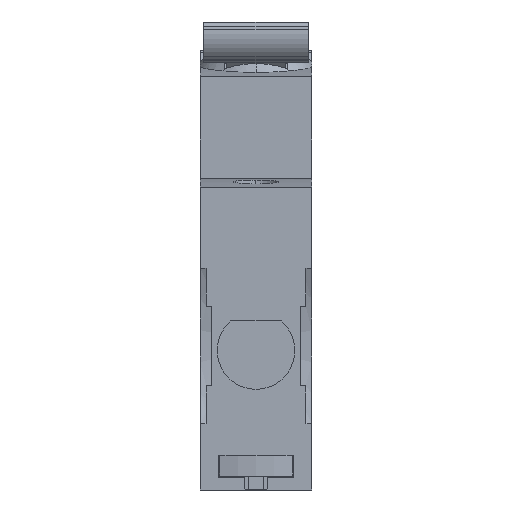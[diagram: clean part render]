
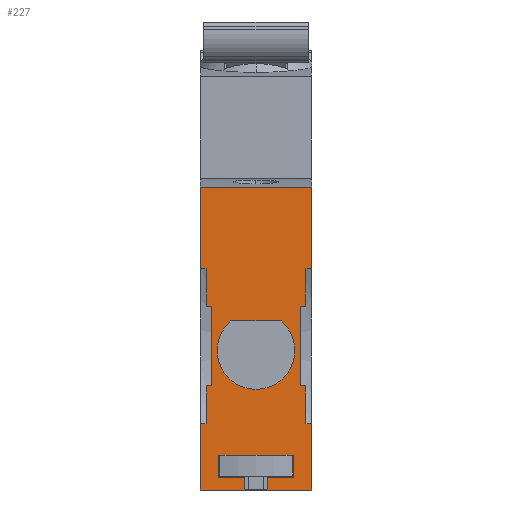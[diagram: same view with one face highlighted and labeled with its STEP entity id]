
A CAD part, front view. The second image highlights one B-rep face of the part: STEP entity #227.
In plain terms, the highlighted planar face has unit normal (0, -1, 0).
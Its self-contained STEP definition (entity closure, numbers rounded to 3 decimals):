
#227=ADVANCED_FACE('',(#709,#710),#711,.T.);
#709=FACE_OUTER_BOUND('',#1481,.T.);
#710=FACE_BOUND('',#1482,.T.);
#711=PLANE('',#1483);
#1481=EDGE_LOOP('',(#2865,#2866,#2867,#2868,#2869,#2870,#2871,#2872,#2873,#2874,#2875,#2876,#2877,#2878,#2879,#2880,#2881,#2882,#2883,#2884,#2885,#2886,#2887,#2888,#2889,#2890,#2891,#2892));
#1482=EDGE_LOOP('',(#2893,#2894,#2895));
#1483=AXIS2_PLACEMENT_3D('',#2896,#2897,#2898);
#2865=ORIENTED_EDGE('',*,*,#5557,.F.);
#2866=ORIENTED_EDGE('',*,*,#5558,.T.);
#2867=ORIENTED_EDGE('',*,*,#5559,.F.);
#2868=ORIENTED_EDGE('',*,*,#5264,.T.);
#2869=ORIENTED_EDGE('',*,*,#5560,.T.);
#2870=ORIENTED_EDGE('',*,*,#5561,.T.);
#2871=ORIENTED_EDGE('',*,*,#5562,.F.);
#2872=ORIENTED_EDGE('',*,*,#5563,.F.);
#2873=ORIENTED_EDGE('',*,*,#5556,.T.);
#2874=ORIENTED_EDGE('',*,*,#5564,.T.);
#2875=ORIENTED_EDGE('',*,*,#5565,.F.);
#2876=ORIENTED_EDGE('',*,*,#5566,.F.);
#2877=ORIENTED_EDGE('',*,*,#5567,.T.);
#2878=ORIENTED_EDGE('',*,*,#5373,.F.);
#2879=ORIENTED_EDGE('',*,*,#5568,.T.);
#2880=ORIENTED_EDGE('',*,*,#5569,.F.);
#2881=ORIENTED_EDGE('',*,*,#5570,.T.);
#2882=ORIENTED_EDGE('',*,*,#5571,.F.);
#2883=ORIENTED_EDGE('',*,*,#5572,.F.);
#2884=ORIENTED_EDGE('',*,*,#5573,.F.);
#2885=ORIENTED_EDGE('',*,*,#5574,.F.);
#2886=ORIENTED_EDGE('',*,*,#5369,.F.);
#2887=ORIENTED_EDGE('',*,*,#5575,.F.);
#2888=ORIENTED_EDGE('',*,*,#5268,.T.);
#2889=ORIENTED_EDGE('',*,*,#5576,.T.);
#2890=ORIENTED_EDGE('',*,*,#5577,.T.);
#2891=ORIENTED_EDGE('',*,*,#5578,.T.);
#2892=ORIENTED_EDGE('',*,*,#5579,.T.);
#2893=ORIENTED_EDGE('',*,*,#5580,.T.);
#2894=ORIENTED_EDGE('',*,*,#5581,.T.);
#2895=ORIENTED_EDGE('',*,*,#5236,.T.);
#2896=CARTESIAN_POINT('',(0.5,0.0,-23.464));
#2897=DIRECTION('',(0.0,-1.0,0.0));
#2898=DIRECTION('',(0.0,0.0,-1.0));
#5236=EDGE_CURVE('',#6280,#6284,#6286,.T.);
#5264=EDGE_CURVE('',#6342,#6340,#6343,.T.);
#5268=EDGE_CURVE('',#6350,#6348,#6351,.T.);
#5369=EDGE_CURVE('',#6531,#6533,#6534,.T.);
#5373=EDGE_CURVE('',#6539,#6541,#6542,.T.);
#5556=EDGE_CURVE('',#6797,#6847,#6849,.T.);
#5557=EDGE_CURVE('',#6850,#6851,#6852,.T.);
#5558=EDGE_CURVE('',#6850,#6853,#6854,.T.);
#5559=EDGE_CURVE('',#6342,#6853,#6855,.T.);
#5560=EDGE_CURVE('',#6340,#6856,#6857,.T.);
#5561=EDGE_CURVE('',#6856,#6858,#6859,.T.);
#5562=EDGE_CURVE('',#6860,#6858,#6861,.T.);
#5563=EDGE_CURVE('',#6797,#6860,#6862,.T.);
#5564=EDGE_CURVE('',#6847,#6863,#6864,.T.);
#5565=EDGE_CURVE('',#6865,#6863,#6866,.T.);
#5566=EDGE_CURVE('',#6867,#6865,#6868,.T.);
#5567=EDGE_CURVE('',#6867,#6541,#6869,.T.);
#5568=EDGE_CURVE('',#6539,#6870,#6871,.T.);
#5569=EDGE_CURVE('',#6872,#6870,#6873,.T.);
#5570=EDGE_CURVE('',#6872,#6874,#6875,.T.);
#5571=EDGE_CURVE('',#6876,#6874,#6877,.T.);
#5572=EDGE_CURVE('',#6878,#6876,#6879,.T.);
#5573=EDGE_CURVE('',#6880,#6878,#6881,.T.);
#5574=EDGE_CURVE('',#6533,#6880,#6882,.T.);
#5575=EDGE_CURVE('',#6350,#6531,#6883,.T.);
#5576=EDGE_CURVE('',#6348,#6884,#6885,.T.);
#5577=EDGE_CURVE('',#6884,#6886,#6887,.T.);
#5578=EDGE_CURVE('',#6886,#6888,#6889,.T.);
#5579=EDGE_CURVE('',#6888,#6851,#6890,.T.);
#5580=EDGE_CURVE('',#6284,#6891,#6892,.T.);
#5581=EDGE_CURVE('',#6891,#6280,#6893,.T.);
#6280=VERTEX_POINT('',#8018);
#6284=VERTEX_POINT('',#8023);
#6286=CIRCLE('',#8026,6.149);
#6340=VERTEX_POINT('',#8100);
#6342=VERTEX_POINT('',#8103);
#6343=LINE('',#8104,#8105);
#6348=VERTEX_POINT('',#8111);
#6350=VERTEX_POINT('',#8114);
#6351=LINE('',#8115,#8116);
#6531=VERTEX_POINT('',#8322);
#6533=VERTEX_POINT('',#8324);
#6534=LINE('',#8325,#8326);
#6539=VERTEX_POINT('',#8332);
#6541=VERTEX_POINT('',#8335);
#6542=LINE('',#8336,#8337);
#6797=VERTEX_POINT('',#8763);
#6847=VERTEX_POINT('',#8838);
#6849=LINE('',#8841,#8842);
#6850=VERTEX_POINT('',#8843);
#6851=VERTEX_POINT('',#8844);
#6852=LINE('',#8845,#8846);
#6853=VERTEX_POINT('',#8847);
#6854=LINE('',#8848,#8849);
#6855=LINE('',#8850,#8851);
#6856=VERTEX_POINT('',#8852);
#6857=LINE('',#8853,#8854);
#6858=VERTEX_POINT('',#8855);
#6859=LINE('',#8856,#8857);
#6860=VERTEX_POINT('',#8858);
#6861=LINE('',#8859,#8860);
#6862=LINE('',#8861,#8862);
#6863=VERTEX_POINT('',#8863);
#6864=LINE('',#8864,#8865);
#6865=VERTEX_POINT('',#8866);
#6866=LINE('',#8867,#8868);
#6867=VERTEX_POINT('',#8869);
#6868=LINE('',#8870,#8871);
#6869=LINE('',#8872,#8873);
#6870=VERTEX_POINT('',#8874);
#6871=LINE('',#8875,#8876);
#6872=VERTEX_POINT('',#8877);
#6873=LINE('',#8878,#8879);
#6874=VERTEX_POINT('',#8880);
#6875=LINE('',#8881,#8882);
#6876=VERTEX_POINT('',#8883);
#6877=LINE('',#8884,#8885);
#6878=VERTEX_POINT('',#8886);
#6879=LINE('',#8887,#8888);
#6880=VERTEX_POINT('',#8889);
#6881=LINE('',#8890,#8891);
#6882=LINE('',#8892,#8893);
#6883=LINE('',#8894,#8895);
#6884=VERTEX_POINT('',#8896);
#6885=LINE('',#8897,#8898);
#6886=VERTEX_POINT('',#8899);
#6887=LINE('',#8900,#8901);
#6888=VERTEX_POINT('',#8902);
#6889=LINE('',#8903,#8904);
#6890=LINE('',#8905,#8906);
#6891=VERTEX_POINT('',#8907);
#6892=LINE('',#8908,#8909);
#6893=CIRCLE('',#8910,6.149);
#8018=CARTESIAN_POINT('',(9.35,0.0,-55.484));
#8023=CARTESIAN_POINT('',(5.385,0.0,-44.635));
#8026=AXIS2_PLACEMENT_3D('',#10666,#10667,#10668);
#8100=CARTESIAN_POINT('',(0.5,0.0,-71.435));
#8103=CARTESIAN_POINT('',(0.5,0.0,-60.935));
#8104=CARTESIAN_POINT('',(0.5,0.0,-60.935));
#8105=VECTOR('',#10708,10.5);
#8111=CARTESIAN_POINT('',(0.5,0.0,-36.335));
#8114=CARTESIAN_POINT('',(0.5,0.0,-23.464));
#8115=CARTESIAN_POINT('',(0.5,0.0,-23.464));
#8116=VECTOR('',#10714,12.871);
#8322=CARTESIAN_POINT('',(18.2,0.0,-23.464));
#8324=CARTESIAN_POINT('',(18.2,0.0,-36.335));
#8325=CARTESIAN_POINT('',(18.2,0.0,-23.464));
#8326=VECTOR('',#10963,12.871);
#8332=CARTESIAN_POINT('',(18.2,0.0,-60.935));
#8335=CARTESIAN_POINT('',(18.2,0.0,-71.435));
#8336=CARTESIAN_POINT('',(18.2,0.0,-60.935));
#8337=VECTOR('',#10969,10.5);
#8763=CARTESIAN_POINT('',(3.35,0.0,-65.935));
#8838=CARTESIAN_POINT('',(15.35,0.0,-65.935));
#8841=CARTESIAN_POINT('',(3.35,0.0,-65.935));
#8842=VECTOR('',#11184,12.0);
#8843=CARTESIAN_POINT('',(1.45,0.0,-54.935));
#8844=CARTESIAN_POINT('',(2.35,0.0,-54.935));
#8845=CARTESIAN_POINT('',(1.45,0.0,-54.935));
#8846=VECTOR('',#11185,0.9);
#8847=CARTESIAN_POINT('',(1.45,0.0,-60.935));
#8848=CARTESIAN_POINT('',(1.45,0.0,-54.935));
#8849=VECTOR('',#11186,6.0);
#8850=CARTESIAN_POINT('',(0.5,0.0,-60.935));
#8851=VECTOR('',#11187,0.95);
#8852=CARTESIAN_POINT('',(7.55,0.0,-71.435));
#8853=CARTESIAN_POINT('',(0.5,0.0,-71.435));
#8854=VECTOR('',#11188,7.05);
#8855=CARTESIAN_POINT('',(7.55,0.0,-69.435));
#8856=CARTESIAN_POINT('',(7.55,0.0,-71.435));
#8857=VECTOR('',#11189,2.);
#8858=CARTESIAN_POINT('',(3.35,0.0,-69.435));
#8859=CARTESIAN_POINT('',(3.35,0.0,-69.435));
#8860=VECTOR('',#11190,4.2);
#8861=CARTESIAN_POINT('',(3.35,0.0,-65.935));
#8862=VECTOR('',#11191,3.5);
#8863=CARTESIAN_POINT('',(15.35,0.0,-69.435));
#8864=CARTESIAN_POINT('',(15.35,0.0,-65.935));
#8865=VECTOR('',#11192,3.5);
#8866=CARTESIAN_POINT('',(11.15,0.0,-69.435));
#8867=CARTESIAN_POINT('',(11.15,0.0,-69.435));
#8868=VECTOR('',#11193,4.2);
#8869=CARTESIAN_POINT('',(11.15,0.0,-71.435));
#8870=CARTESIAN_POINT('',(11.15,0.0,-71.435));
#8871=VECTOR('',#11194,2.);
#8872=CARTESIAN_POINT('',(11.15,0.0,-71.435));
#8873=VECTOR('',#11195,7.05);
#8874=CARTESIAN_POINT('',(17.25,0.0,-60.935));
#8875=CARTESIAN_POINT('',(18.2,0.0,-60.935));
#8876=VECTOR('',#11196,0.95);
#8877=CARTESIAN_POINT('',(17.25,0.0,-54.935));
#8878=CARTESIAN_POINT('',(17.25,0.0,-54.935));
#8879=VECTOR('',#11197,6.0);
#8880=CARTESIAN_POINT('',(16.35,0.0,-54.935));
#8881=CARTESIAN_POINT('',(17.25,0.0,-54.935));
#8882=VECTOR('',#11198,0.9);
#8883=CARTESIAN_POINT('',(16.35,0.0,-42.335));
#8884=CARTESIAN_POINT('',(16.35,0.0,-42.335));
#8885=VECTOR('',#11199,12.6);
#8886=CARTESIAN_POINT('',(17.25,0.0,-42.335));
#8887=CARTESIAN_POINT('',(17.25,0.0,-42.335));
#8888=VECTOR('',#11200,0.9);
#8889=CARTESIAN_POINT('',(17.25,0.0,-36.335));
#8890=CARTESIAN_POINT('',(17.25,0.0,-36.335));
#8891=VECTOR('',#11201,6.0);
#8892=CARTESIAN_POINT('',(18.2,0.0,-36.335));
#8893=VECTOR('',#11202,0.95);
#8894=CARTESIAN_POINT('',(0.5,0.0,-23.464));
#8895=VECTOR('',#11203,17.7);
#8896=CARTESIAN_POINT('',(1.45,0.0,-36.335));
#8897=CARTESIAN_POINT('',(0.5,0.0,-36.335));
#8898=VECTOR('',#11204,0.95);
#8899=CARTESIAN_POINT('',(1.45,0.0,-42.335));
#8900=CARTESIAN_POINT('',(1.45,0.0,-36.335));
#8901=VECTOR('',#11205,6.0);
#8902=CARTESIAN_POINT('',(2.35,0.0,-42.335));
#8903=CARTESIAN_POINT('',(1.45,0.0,-42.335));
#8904=VECTOR('',#11206,0.9);
#8905=CARTESIAN_POINT('',(2.35,0.0,-42.335));
#8906=VECTOR('',#11207,12.6);
#8907=CARTESIAN_POINT('',(13.315,0.0,-44.635));
#8908=CARTESIAN_POINT('',(5.385,0.0,-44.635));
#8909=VECTOR('',#11208,7.931);
#8910=AXIS2_PLACEMENT_3D('',#11209,#11210,#11211);
#10666=CARTESIAN_POINT('',(9.35,0.0,-49.335));
#10667=DIRECTION('',(-0.0,1.0,0.0));
#10668=DIRECTION('',(0.645,0.0,0.764));
#10708=DIRECTION('',(0.0,0.0,-1.0));
#10714=DIRECTION('',(0.0,0.0,-1.0));
#10963=DIRECTION('',(0.0,0.0,-1.0));
#10969=DIRECTION('',(0.0,0.0,-1.0));
#11184=DIRECTION('',(1.0,0.0,0.0));
#11185=DIRECTION('',(1.0,0.0,0.0));
#11186=DIRECTION('',(0.0,0.0,-1.0));
#11187=DIRECTION('',(1.0,0.0,0.0));
#11188=DIRECTION('',(1.0,0.0,0.0));
#11189=DIRECTION('',(0.0,0.0,1.0));
#11190=DIRECTION('',(1.0,0.0,0.0));
#11191=DIRECTION('',(0.0,0.0,-1.0));
#11192=DIRECTION('',(0.0,0.0,-1.0));
#11193=DIRECTION('',(1.0,0.0,0.0));
#11194=DIRECTION('',(0.0,0.0,1.0));
#11195=DIRECTION('',(1.0,0.0,0.0));
#11196=DIRECTION('',(-1.0,0.0,0.0));
#11197=DIRECTION('',(0.0,0.0,-1.0));
#11198=DIRECTION('',(-1.0,0.0,0.0));
#11199=DIRECTION('',(0.0,0.0,-1.0));
#11200=DIRECTION('',(-1.0,0.0,0.0));
#11201=DIRECTION('',(0.0,0.0,-1.0));
#11202=DIRECTION('',(-1.0,0.0,0.0));
#11203=DIRECTION('',(1.0,0.0,0.0));
#11204=DIRECTION('',(1.0,0.0,0.0));
#11205=DIRECTION('',(0.0,0.0,-1.0));
#11206=DIRECTION('',(1.0,0.0,0.0));
#11207=DIRECTION('',(0.0,0.0,-1.0));
#11208=DIRECTION('',(1.0,0.0,0.));
#11209=CARTESIAN_POINT('',(9.35,0.0,-49.335));
#11210=DIRECTION('',(-0.0,1.0,0.0));
#11211=DIRECTION('',(0.645,0.0,0.764));
